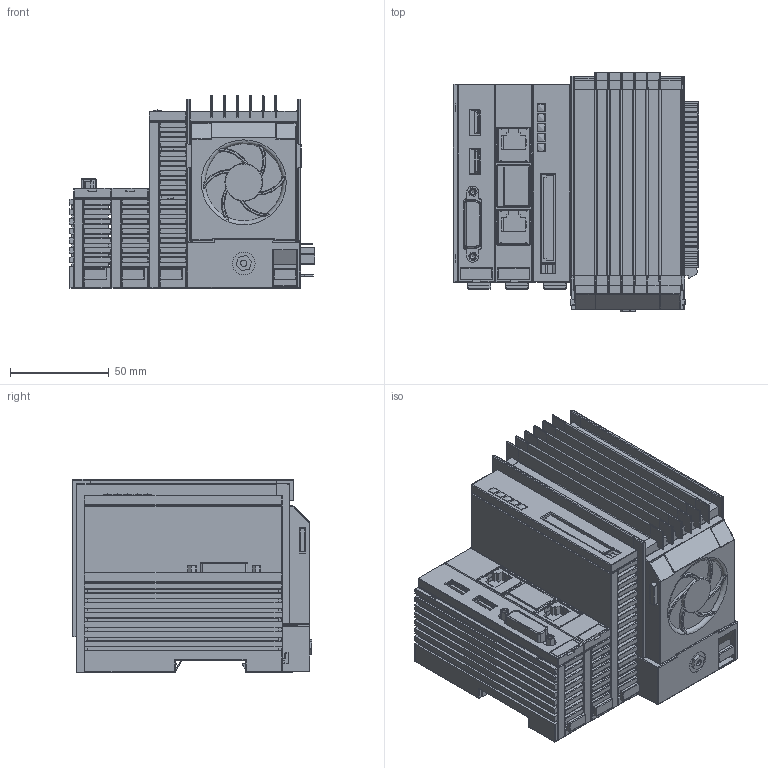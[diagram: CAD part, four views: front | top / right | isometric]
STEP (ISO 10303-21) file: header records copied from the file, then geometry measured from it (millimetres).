
FILE_DESCRIPTION(/* description */ (''),/* implementation_level */ '2;1');
FILE_NAME(/* name */ 'X:\0-inventor\0-3d-Teile\PC-Compo\solids\CX\0-Ausgabe\0000003622_CX1030-01XX_SOLID_U1216.stp',/* time_stamp */ '2020-12-16T14:47:07+01:00',/* author */ ('simonejochim'),/* organization */ ('Design-AG'),/* preprocessor_version */ 'ST-DEVELOPER v18.1',/* originating_system */ 'Autodesk Inventor 2021',/* authorisation */ '');
FILE_SCHEMA (('AUTOMOTIVE_DESIGN { 1 0 10303 214 3 1 1 }'));
Products named in the file (1): Bauteil40
Bounding box: 124.1 x 121 x 97.75 mm (x, y, z)
Volume: 801157.1 mm3; surface area: 175574.6 mm2
Topology: 18 solids, 21 shells, 6511 faces, 17425 edges, 10988 vertices
Faces by surface type: plane 4485, cylinder 1544, sphere 232, bspline 135, cone 74, torus 41
Full cylindrical faces by diameter (mm): 1.5 x208, 2.256 x2, 2.459 x2, 2.5 x2, 2.9 x2, 3.242 x1, 11.483 x1
Entity records: 208432 total; most frequent: CARTESIAN_POINT 38420, ORIENTED_EDGE 34446, DIRECTION 33079, EDGE_CURVE 17223, LINE 13693, VECTOR 13693, VERTEX_POINT 10988, AXIS2_PLACEMENT_3D 9693
